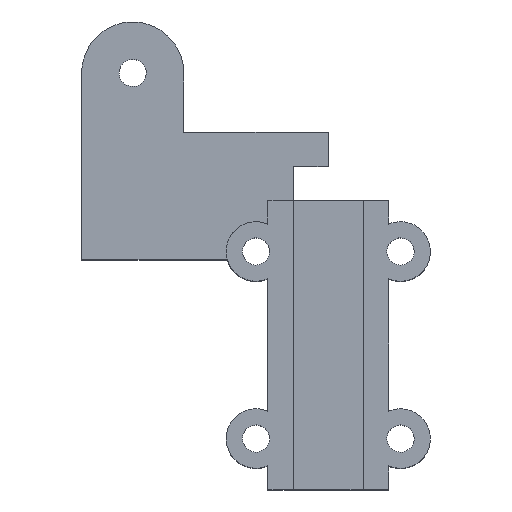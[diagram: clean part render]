
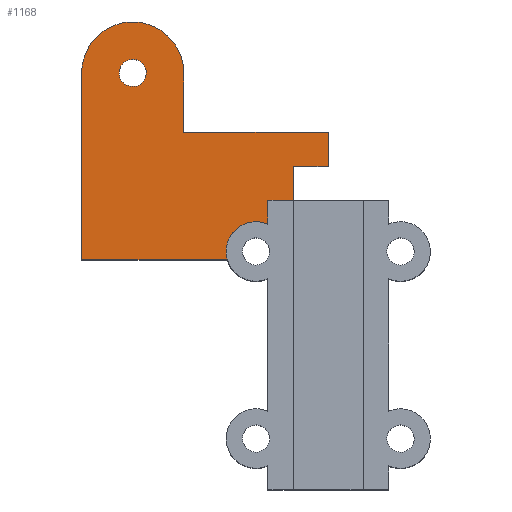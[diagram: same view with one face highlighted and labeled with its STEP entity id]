
A CAD part, top view. The second image highlights one B-rep face of the part: STEP entity #1168.
In plain terms, the highlighted free-form (B-spline) face has degree [1, 1] with [2, 2] control points.
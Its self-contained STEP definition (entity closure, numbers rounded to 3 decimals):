
#10 = VERTEX_POINT('', #11);
#11 = CARTESIAN_POINT('', (-119.037, 132., -0.7));
#16 = EDGE_CURVE('', #17, #10, #19, .T.);
#17 = VERTEX_POINT('', #18);
#18 = CARTESIAN_POINT('', (-107.037, 132., -0.7));
#19 = (
   BOUNDED_CURVE ()
   B_SPLINE_CURVE (2, (#20, #21, #22, #23, #24), .UNSPECIFIED., .F., .U.)
   B_SPLINE_CURVE_WITH_KNOTS ((3, 2, 3), (0., 9.425, 18.85), .UNSPECIFIED.)
   CURVE ()
   GEOMETRIC_REPRESENTATION_ITEM ()
   RATIONAL_B_SPLINE_CURVE ((1., 0.707, 1., 0.707, 1.))
   REPRESENTATION_ITEM ('')
);
#20 = CARTESIAN_POINT('', (-107.037, 132., -0.7));
#21 = CARTESIAN_POINT('', (-107.037, 138., -0.7));
#22 = CARTESIAN_POINT('', (-113.037, 138., -0.7));
#23 = CARTESIAN_POINT('', (-119.037, 138., -0.7));
#24 = CARTESIAN_POINT('', (-119.037, 132., -0.7));
#330 = VERTEX_POINT('', #331);
#331 = CARTESIAN_POINT('', (-101.891, 110., -0.7));
#389 = VERTEX_POINT('', #390);
#390 = CARTESIAN_POINT('', (-97.137, 114.208, -0.7));
#395 = EDGE_CURVE('', #389, #330, #396, .T.);
#396 = (
   BOUNDED_CURVE ()
   B_SPLINE_CURVE (2, (#397, #398, #399, #400, #401), .UNSPECIFIED., .F., .U.)
   B_SPLINE_CURVE_WITH_KNOTS ((3, 2, 3), (0.338, 0.669, 1.), .UNSPECIFIED.)
   CURVE ()
   GEOMETRIC_REPRESENTATION_ITEM ()
   RATIONAL_B_SPLINE_CURVE ((1., 0.843, 1., 0.843, 1.))
   REPRESENTATION_ITEM ('')
);
#397 = CARTESIAN_POINT('', (-97.137, 114.208, -0.7));
#398 = CARTESIAN_POINT('', (-99.184, 115.101, -0.7));
#399 = CARTESIAN_POINT('', (-100.857, 113.621, -0.7));
#400 = CARTESIAN_POINT('', (-102.529, 112.14, -0.7));
#401 = CARTESIAN_POINT('', (-101.891, 110., -0.7));
#616 = VERTEX_POINT('', #617);
#617 = CARTESIAN_POINT('', (-107.037, 125., -0.7));
#630 = EDGE_CURVE('', #616, #17, #631, .T.);
#631 = B_SPLINE_CURVE_WITH_KNOTS('', 1, (#632, #633), .UNSPECIFIED., .F., .U., (2, 2), (3., 10.), .UNSPECIFIED.);
#632 = CARTESIAN_POINT('', (-107.037, 125., -0.7));
#633 = CARTESIAN_POINT('', (-107.037, 132., -0.7));
#748 = EDGE_CURVE('', #749, #330, #751, .T.);
#749 = VERTEX_POINT('', #750);
#750 = CARTESIAN_POINT('', (-119.037, 110., -0.7));
#751 = B_SPLINE_CURVE_WITH_KNOTS('', 1, (#752, #753), .UNSPECIFIED., .F., .U., (2, 2), (0., 17.146), .UNSPECIFIED.);
#752 = CARTESIAN_POINT('', (-119.037, 110., -0.7));
#753 = CARTESIAN_POINT('', (-101.891, 110., -0.7));
#775 = EDGE_CURVE('', #749, #10, #776, .T.);
#776 = B_SPLINE_CURVE_WITH_KNOTS('', 1, (#777, #778), .UNSPECIFIED., .F., .U., (2, 2), (0., 1.467), .UNSPECIFIED.);
#777 = CARTESIAN_POINT('', (-119.037, 110., -0.7));
#778 = CARTESIAN_POINT('', (-119.037, 132., -0.7));
#848 = EDGE_CURVE('', #616, #849, #851, .T.);
#849 = VERTEX_POINT('', #850);
#850 = CARTESIAN_POINT('', (-90.037, 125., -0.7));
#851 = B_SPLINE_CURVE_WITH_KNOTS('', 1, (#852, #853), .UNSPECIFIED., .F., .U., (2, 2), (12., 29.), .UNSPECIFIED.);
#852 = CARTESIAN_POINT('', (-107.037, 125., -0.7));
#853 = CARTESIAN_POINT('', (-90.037, 125., -0.7));
#926 = VERTEX_POINT('', #927);
#927 = CARTESIAN_POINT('', (-97.137, 117., -0.7));
#932 = EDGE_CURVE('', #389, #926, #933, .T.);
#933 = B_SPLINE_CURVE_WITH_KNOTS('', 1, (#934, #935), .UNSPECIFIED., .F., .U., (2, 2), (0.601, 1.), .UNSPECIFIED.);
#934 = CARTESIAN_POINT('', (-97.137, 114.208, -0.7));
#935 = CARTESIAN_POINT('', (-97.137, 117., -0.7));
#1028 = VERTEX_POINT('', #1029);
#1029 = CARTESIAN_POINT('', (-94.137, 117., -0.7));
#1036 = EDGE_CURVE('', #926, #1028, #1037, .T.);
#1037 = B_SPLINE_CURVE_WITH_KNOTS('', 1, (#1038, #1039), .UNSPECIFIED., .F., .U., (2, 2), (0., 0.423), .UNSPECIFIED.);
#1038 = CARTESIAN_POINT('', (-97.137, 117., -0.7));
#1039 = CARTESIAN_POINT('', (-94.137, 117., -0.7));
#1151 = VERTEX_POINT('', #1152);
#1152 = CARTESIAN_POINT('', (-90.037, 121., -0.7));
#1159 = EDGE_CURVE('', #1151, #849, #1160, .T.);
#1160 = B_SPLINE_CURVE_WITH_KNOTS('', 1, (#1161, #1162), .UNSPECIFIED., .F., .U., (2, 2), (11., 15.), .UNSPECIFIED.);
#1161 = CARTESIAN_POINT('', (-90.037, 121., -0.7));
#1162 = CARTESIAN_POINT('', (-90.037, 125., -0.7));
#1168 = ADVANCED_FACE('', (#1169, #1192), #1208, .T.);
#1169 = FACE_OUTER_BOUND('', #1170, .T.);
#1170 = EDGE_LOOP('', (#1171, #1178, #1179, #1180, #1181, #1182, #1183, #1184, #1185, #1186, #1187));
#1171 = ORIENTED_EDGE('', *, *, #1172, .F.);
#1172 = EDGE_CURVE('', #1151, #1173, #1175, .T.);
#1173 = VERTEX_POINT('', #1174);
#1174 = CARTESIAN_POINT('', (-94.137, 121., -0.7));
#1175 = B_SPLINE_CURVE_WITH_KNOTS('', 1, (#1176, #1177), .UNSPECIFIED., .F., .U., (2, 2), (0., 1.), .UNSPECIFIED.);
#1176 = CARTESIAN_POINT('', (-90.037, 121., -0.7));
#1177 = CARTESIAN_POINT('', (-94.137, 121., -0.7));
#1178 = ORIENTED_EDGE('', *, *, #1159, .T.);
#1179 = ORIENTED_EDGE('', *, *, #848, .F.);
#1180 = ORIENTED_EDGE('', *, *, #630, .T.);
#1181 = ORIENTED_EDGE('', *, *, #16, .T.);
#1182 = ORIENTED_EDGE('', *, *, #775, .F.);
#1183 = ORIENTED_EDGE('', *, *, #748, .T.);
#1184 = ORIENTED_EDGE('', *, *, #395, .F.);
#1185 = ORIENTED_EDGE('', *, *, #932, .T.);
#1186 = ORIENTED_EDGE('', *, *, #1036, .T.);
#1187 = ORIENTED_EDGE('', *, *, #1188, .F.);
#1188 = EDGE_CURVE('', #1173, #1028, #1189, .T.);
#1189 = B_SPLINE_CURVE_WITH_KNOTS('', 1, (#1190, #1191), .UNSPECIFIED., .F., .U., (2, 2), (0., 0.364), .UNSPECIFIED.);
#1190 = CARTESIAN_POINT('', (-94.137, 121., -0.7));
#1191 = CARTESIAN_POINT('', (-94.137, 117., -0.7));
#1192 = FACE_BOUND('', #1193, .T.);
#1193 = EDGE_LOOP('', (#1194));
#1194 = ORIENTED_EDGE('', *, *, #1195, .F.);
#1195 = EDGE_CURVE('', #1196, #1196, #1198, .T.);
#1196 = VERTEX_POINT('', #1197);
#1197 = CARTESIAN_POINT('', (-111.437, 132., -0.7));
#1198 = (
   BOUNDED_CURVE ()
   B_SPLINE_CURVE (2, (#1199, #1200, #1201, #1202, #1203, #1204, #1205, #1206, #1207), .UNSPECIFIED., .T., .U.)
   B_SPLINE_CURVE_WITH_KNOTS ((3, 2, 2, 2, 3), (0., 0.25, 0.5, 0.75, 1.), .UNSPECIFIED.)
   CURVE ()
   GEOMETRIC_REPRESENTATION_ITEM ()
   RATIONAL_B_SPLINE_CURVE ((1., 0.707, 1., 0.707, 1., 0.707, 1., 0.707, 1.))
   REPRESENTATION_ITEM ('')
);
#1199 = CARTESIAN_POINT('', (-111.437, 132., -0.7));
#1200 = CARTESIAN_POINT('', (-111.437, 133.6, -0.7));
#1201 = CARTESIAN_POINT('', (-113.037, 133.6, -0.7));
#1202 = CARTESIAN_POINT('', (-114.637, 133.6, -0.7));
#1203 = CARTESIAN_POINT('', (-114.637, 132., -0.7));
#1204 = CARTESIAN_POINT('', (-114.637, 130.4, -0.7));
#1205 = CARTESIAN_POINT('', (-113.037, 130.4, -0.7));
#1206 = CARTESIAN_POINT('', (-111.437, 130.4, -0.7));
#1207 = CARTESIAN_POINT('', (-111.437, 132., -0.7));
#1208 = B_SPLINE_SURFACE_WITH_KNOTS('', 1, 1, ((#1209, #1210), (#1211, #1212)), .UNSPECIFIED., .F., .F., .U., (2, 2), (2, 2), (-3.334, 29.), (0., 31.334), .UNSPECIFIED.);
#1209 = CARTESIAN_POINT('', (-122.371, 110., -0.7));
#1210 = CARTESIAN_POINT('', (-122.371, 141.334, -0.7));
#1211 = CARTESIAN_POINT('', (-90.037, 110., -0.7));
#1212 = CARTESIAN_POINT('', (-90.037, 141.334, -0.7));
